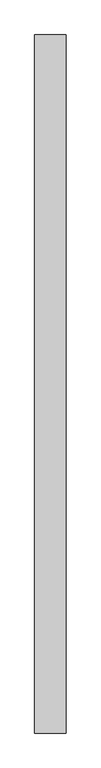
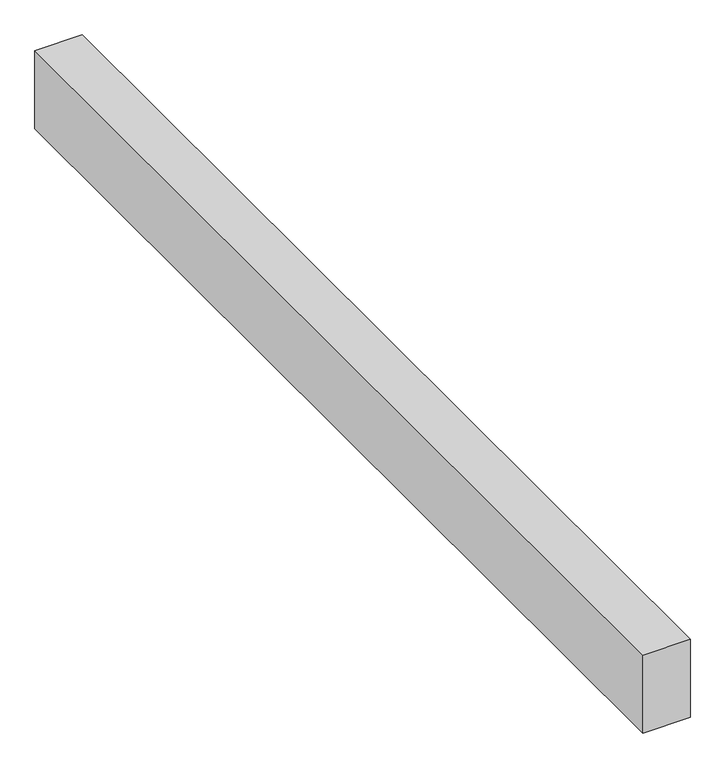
"""IFC4 building model written with IfcOpenShell, lengths in millimetres: proxy geometry."""

from ifc_helpers import new_model, si_unit, frame, origin, place, context, project, spatial, polyline, outline, extrude, source, transform, mapped, element, save


def structural_framing_ef02ec59(model_context):
    return source(origin(), model_context, "Body", "SweptSolid", [
        extrude(outline(polyline([(100.0, -2236.3), (-100.0, -2236.3), (-100.0, 2236.3), (100.0, 2236.3), (100.0, -2236.3)])), frame((0.0, 0.0, -350.0), z_axis=(0.0, 0.0, 1.0), x_axis=(1.0, 0.0, 0.0)), (0.0, 0.0, 1.0), 350.0),
    ])


if __name__ == "__main__":
    model = new_model("IFC4")
    model_context = context("Model", 3, world=origin())
    ifc_project = project(units=[si_unit("LENGTHUNIT", "METRE", prefix="MILLI")], contexts=[model_context])
    site = spatial("IfcSite", under=ifc_project)
    building = spatial("IfcBuilding", under=site)
    placement = place(None, origin())
    structural_framing_shape = structural_framing_ef02ec59(model_context)
    element("IfcBuildingElementProxy", 1, Name="Structural Framing", at=placement, inside=building, context=model_context, shape_type="MappedRepresentation", body=[
        mapped(structural_framing_shape, transform((0.0, 0.0, 0.0), x_axis=(1.0, 0.0, 0.0), y_axis=(0.0, 1.0, 0.0), z_axis=(0.0, 0.0, 1.0))),
    ])
    save(model, "model.ifc")
